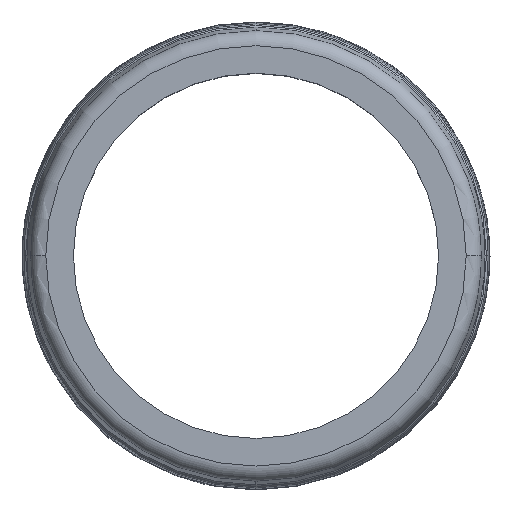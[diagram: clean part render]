
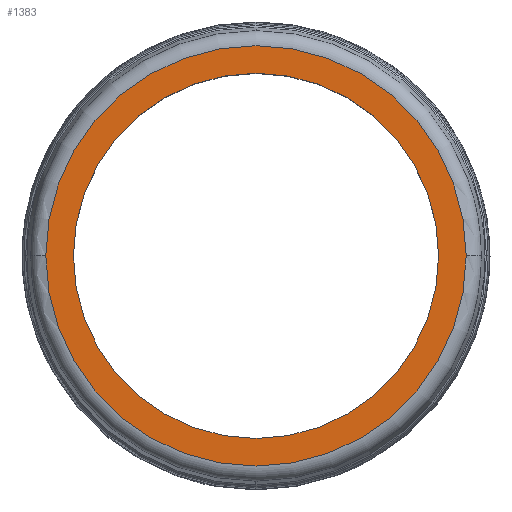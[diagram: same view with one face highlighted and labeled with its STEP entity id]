
A CAD part, top view. The second image highlights one B-rep face of the part: STEP entity #1383.
In plain terms, the highlighted planar face has unit normal (0, 0, 1).
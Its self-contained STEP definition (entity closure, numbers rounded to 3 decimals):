
#4 = CARTESIAN_POINT ( 'NONE',  ( -26.949, 0., 9.6 ) ) ;
#56 = CARTESIAN_POINT ( 'NONE',  ( 23.413, 0., 9.6 ) ) ;
#57 = CARTESIAN_POINT ( 'NONE',  ( 26.949, 0., 9.6 ) ) ;
#69 = CARTESIAN_POINT ( 'NONE',  ( -23.413, 0., 9.6 ) ) ;
#117 = DIRECTION ( 'NONE',  ( 0., 0., 1. ) ) ;
#118 = DIRECTION ( 'NONE',  ( 1., 0., 0. ) ) ;
#125 = CARTESIAN_POINT ( 'NONE',  ( 0., 0., 9.6 ) ) ;
#236 = FACE_BOUND ( 'NONE', #590, .T. ) ;
#237 = FACE_OUTER_BOUND ( 'NONE', #588, .T. ) ;
#330 = ORIENTED_EDGE ( 'NONE', *, *, #1246, .F. ) ;
#379 = ORIENTED_EDGE ( 'NONE', *, *, #1295, .T. ) ;
#396 = ORIENTED_EDGE ( 'NONE', *, *, #1280, .F. ) ;
#402 = ORIENTED_EDGE ( 'NONE', *, *, #1278, .T. ) ;
#462 = VERTEX_POINT ( 'NONE', #4 ) ;
#588 = EDGE_LOOP ( 'NONE', ( #402, #379 ) ) ;
#590 = EDGE_LOOP ( 'NONE', ( #330, #396 ) ) ;
#678 = VERTEX_POINT ( 'NONE', #69 ) ;
#681 = VERTEX_POINT ( 'NONE', #56 ) ;
#682 = VERTEX_POINT ( 'NONE', #57 ) ;
#951 = AXIS2_PLACEMENT_3D ( 'NONE', #1755, #1730, #1731 ) ;
#1145 = AXIS2_PLACEMENT_3D ( 'NONE', #1738, #1816, #1817 ) ;
#1150 = CIRCLE ( 'NONE', #1151, 23.413 ) ;
#1151 = AXIS2_PLACEMENT_3D ( 'NONE', #125, #117, #118 ) ;
#1162 = CIRCLE ( 'NONE', #1145, 26.949 ) ;
#1189 = AXIS2_PLACEMENT_3D ( 'NONE', #1740, #1818, #1819 ) ;
#1193 = AXIS2_PLACEMENT_3D ( 'NONE', #1693, #1694, #1695 ) ;
#1194 = CIRCLE ( 'NONE', #1193, 26.949 ) ;
#1201 = CIRCLE ( 'NONE', #1189, 23.413 ) ;
#1246 = EDGE_CURVE ( 'NONE', #678, #681, #1150, .T. ) ;
#1278 = EDGE_CURVE ( 'NONE', #462, #682, #1194, .T. ) ;
#1280 = EDGE_CURVE ( 'NONE', #681, #678, #1201, .T. ) ;
#1295 = EDGE_CURVE ( 'NONE', #682, #462, #1162, .T. ) ;
#1383 = ADVANCED_FACE ( 'NONE', ( #237, #236 ), #1752, .F. ) ;
#1693 = CARTESIAN_POINT ( 'NONE',  ( 0., 0., 9.6 ) ) ;
#1694 = DIRECTION ( 'NONE',  ( 0., 0., 1. ) ) ;
#1695 = DIRECTION ( 'NONE',  ( -1., 0., 0. ) ) ;
#1730 = DIRECTION ( 'NONE',  ( 0., 0., -1. ) ) ;
#1731 = DIRECTION ( 'NONE',  ( -1., 0., 0. ) ) ;
#1738 = CARTESIAN_POINT ( 'NONE',  ( 0., 0., 9.6 ) ) ;
#1740 = CARTESIAN_POINT ( 'NONE',  ( 0., 0., 9.6 ) ) ;
#1752 = PLANE ( 'NONE',  #951 ) ;
#1755 = CARTESIAN_POINT ( 'NONE',  ( 0., 23.413, 9.6 ) ) ;
#1816 = DIRECTION ( 'NONE',  ( 0., 0., 1. ) ) ;
#1817 = DIRECTION ( 'NONE',  ( -1., 0., 0. ) ) ;
#1818 = DIRECTION ( 'NONE',  ( 0., 0., 1. ) ) ;
#1819 = DIRECTION ( 'NONE',  ( 1., 0., 0. ) ) ;
